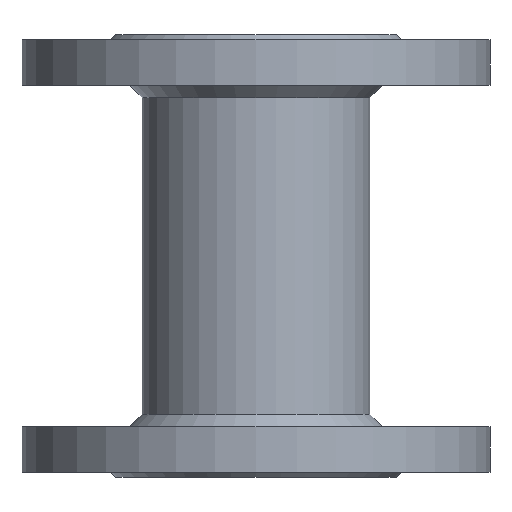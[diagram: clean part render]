
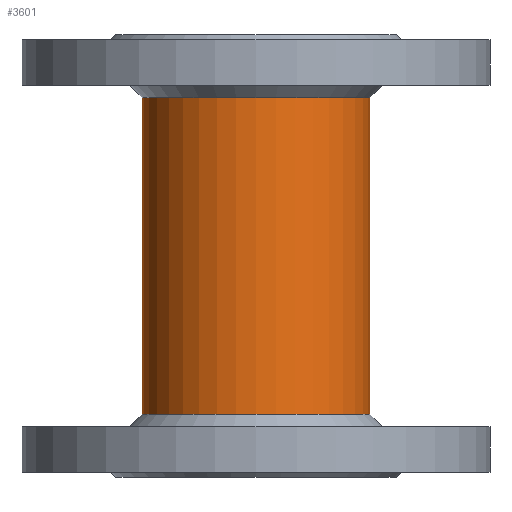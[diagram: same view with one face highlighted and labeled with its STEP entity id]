
A CAD part, front view. The second image highlights one B-rep face of the part: STEP entity #3601.
In plain terms, the highlighted cylindrical face has radius 45 mm (diameter 90 mm), a full revolution.
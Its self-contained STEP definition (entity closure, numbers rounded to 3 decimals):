
#2303=FACE_BOUND('',#5358,.T.);
#2304=FACE_BOUND('',#5359,.T.);
#2305=FACE_BOUND('',#5360,.T.);
#2492=CYLINDRICAL_SURFACE('',#15365,45.);
#2882=CIRCLE('',#15363,45.);
#2883=CIRCLE('',#15364,45.);
#3601=ADVANCED_FACE('',(#2303,#2304,#2305),#2492,.T.);
#5358=EDGE_LOOP('',(#9577));
#5359=EDGE_LOOP('',(#9578));
#5360=EDGE_LOOP('',(#9579,#9580,#9581,#9582));
#6074=B_SPLINE_CURVE_WITH_KNOTS('',3,(#31869,#31870,#31871,#31872,#31873,
#31874,#31875,#31876,#31877,#31878),.UNSPECIFIED.,.F.,.F.,(4,2,2,2,4),(0.,
0.25,0.5,0.75,1.),.UNSPECIFIED.);
#6075=B_SPLINE_CURVE_WITH_KNOTS('',3,(#31879,#31880,#31881,#31882,#31883,
#31884,#31885,#31886,#31887,#31888),.UNSPECIFIED.,.F.,.F.,(4,2,2,2,4),(0.,
0.25,0.5,0.75,1.),.UNSPECIFIED.);
#9577=ORIENTED_EDGE('',*,*,#12644,.T.);
#9578=ORIENTED_EDGE('',*,*,#12645,.T.);
#9579=ORIENTED_EDGE('',*,*,#12646,.T.);
#9580=ORIENTED_EDGE('',*,*,#12636,.F.);
#9581=ORIENTED_EDGE('',*,*,#12647,.T.);
#9582=ORIENTED_EDGE('',*,*,#12640,.F.);
#10854=VERTEX_POINT('',#31838);
#10855=VERTEX_POINT('',#31840);
#10858=VERTEX_POINT('',#31852);
#10859=VERTEX_POINT('',#31854);
#10862=VERTEX_POINT('',#31866);
#10863=VERTEX_POINT('',#31868);
#12636=EDGE_CURVE('',#10854,#10855,#13477,.T.);
#12640=EDGE_CURVE('',#10858,#10859,#13478,.T.);
#12644=EDGE_CURVE('',#10862,#10862,#2882,.T.);
#12645=EDGE_CURVE('',#10863,#10863,#2883,.T.);
#12646=EDGE_CURVE('',#10858,#10855,#6074,.T.);
#12647=EDGE_CURVE('',#10854,#10859,#6075,.T.);
#13477=LINE('',#31839,#14428);
#13478=LINE('',#31853,#14429);
#14428=VECTOR('',#18193,1.);
#14429=VECTOR('',#18196,1.);
#15363=AXIS2_PLACEMENT_3D('',#31865,#18205,#18206);
#15364=AXIS2_PLACEMENT_3D('',#31867,#18207,#18208);
#15365=AXIS2_PLACEMENT_3D('',#31889,#18209,#18210);
#18193=DIRECTION('',(0.,0.,1.));
#18196=DIRECTION('',(0.,0.,-1.));
#18205=DIRECTION('',(0.,0.,1.));
#18206=DIRECTION('',(0.,1.,0.));
#18207=DIRECTION('',(0.,0.,-1.));
#18208=DIRECTION('',(0.,-1.,0.));
#18209=DIRECTION('',(0.,0.,1.));
#18210=DIRECTION('',(0.,-1.,0.));
#31838=CARTESIAN_POINT('',(-11.537,17.5,-11.269));
#31839=CARTESIAN_POINT('',(-11.537,17.5,-2.));
#31840=CARTESIAN_POINT('',(-11.537,17.5,7.269));
#31852=CARTESIAN_POINT('',(11.506,17.5,7.27));
#31853=CARTESIAN_POINT('',(11.506,17.5,-1.999));
#31854=CARTESIAN_POINT('',(11.506,17.5,-11.268));
#31865=CARTESIAN_POINT('',(-0.016,-26.,-54.742));
#31866=CARTESIAN_POINT('',(-0.016,19.,-54.742));
#31867=CARTESIAN_POINT('',(-0.016,-26.,70.258));
#31868=CARTESIAN_POINT('',(-0.016,-71.,70.258));
#31869=CARTESIAN_POINT('',(11.506,17.5,7.27));
#31870=CARTESIAN_POINT('',(10.131,17.864,9.005));
#31871=CARTESIAN_POINT('',(8.388,18.253,10.404));
#31872=CARTESIAN_POINT('',(4.439,18.823,12.33));
#31873=CARTESIAN_POINT('',(2.216,18.999,12.849));
#31874=CARTESIAN_POINT('',(-2.212,19.001,12.856));
#31875=CARTESIAN_POINT('',(-4.434,18.828,12.346));
#31876=CARTESIAN_POINT('',(-8.427,18.253,10.402));
#31877=CARTESIAN_POINT('',(-10.162,17.864,9.005));
#31878=CARTESIAN_POINT('',(-11.537,17.5,7.269));
#31879=CARTESIAN_POINT('',(-11.537,17.5,-11.269));
#31880=CARTESIAN_POINT('',(-10.162,17.864,-13.005));
#31881=CARTESIAN_POINT('',(-8.419,18.253,-14.404));
#31882=CARTESIAN_POINT('',(-4.47,18.823,-16.331));
#31883=CARTESIAN_POINT('',(-2.246,18.999,-16.851));
#31884=CARTESIAN_POINT('',(2.183,19.001,-16.854));
#31885=CARTESIAN_POINT('',(4.406,18.828,-16.344));
#31886=CARTESIAN_POINT('',(8.398,18.252,-14.403));
#31887=CARTESIAN_POINT('',(10.133,17.864,-13.005));
#31888=CARTESIAN_POINT('',(11.506,17.5,-11.268));
#31889=CARTESIAN_POINT('',(-0.016,-26.,914.158));
